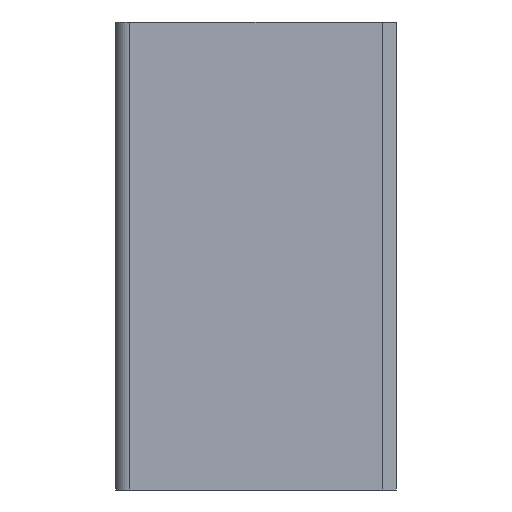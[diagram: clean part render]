
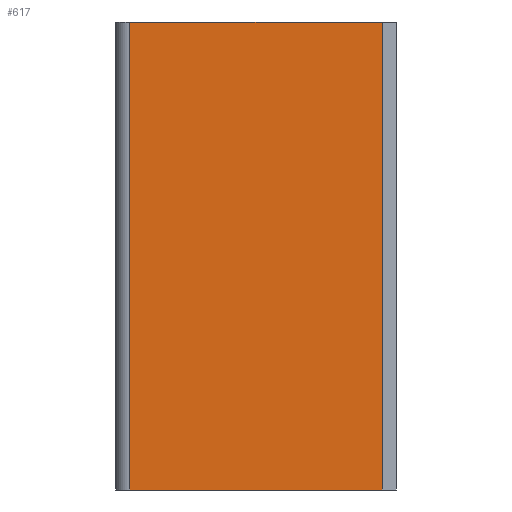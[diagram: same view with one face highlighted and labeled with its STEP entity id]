
A CAD part, left-side view. The second image highlights one B-rep face of the part: STEP entity #617.
In plain terms, the highlighted planar face has unit normal (-1, 0, 0).
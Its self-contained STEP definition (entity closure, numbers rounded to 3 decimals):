
#97=CARTESIAN_POINT('Line Origine',(0.,30.,0.)) ;
#101=CARTESIAN_POINT('Vertex',(0.,57.,0.)) ;
#103=CARTESIAN_POINT('Vertex',(0.,3.,0.)) ;
#520=CARTESIAN_POINT('Line Origine',(0.,30.,-100.)) ;
#524=CARTESIAN_POINT('Vertex',(0.,57.,-100.)) ;
#526=CARTESIAN_POINT('Vertex',(0.,3.,-100.)) ;
#596=CARTESIAN_POINT('Axis2P3D Location',(0.,57.,-100.)) ;
#601=CARTESIAN_POINT('Line Origine',(0.,57.,-50.)) ;
#606=CARTESIAN_POINT('Line Origine',(0.,3.,-50.)) ;
#98=DIRECTION('Vector Direction',(0.,-1.,0.)) ;
#521=DIRECTION('Vector Direction',(0.,-1.,0.)) ;
#597=DIRECTION('Axis2P3D Direction',(-1.,0.,0.)) ;
#598=DIRECTION('Axis2P3D XDirection',(0.,0.,1.)) ;
#602=DIRECTION('Vector Direction',(0.,0.,1.)) ;
#607=DIRECTION('Vector Direction',(0.,0.,1.)) ;
#599=AXIS2_PLACEMENT_3D('Plane Axis2P3D',#596,#597,#598) ;
#612=ORIENTED_EDGE('',*,*,#105,.F.) ;
#613=ORIENTED_EDGE('',*,*,#605,.F.) ;
#614=ORIENTED_EDGE('',*,*,#528,.T.) ;
#615=ORIENTED_EDGE('',*,*,#610,.T.) ;
#99=VECTOR('Line Direction',#98,1.) ;
#522=VECTOR('Line Direction',#521,1.) ;
#603=VECTOR('Line Direction',#602,1.) ;
#608=VECTOR('Line Direction',#607,1.) ;
#617=ADVANCED_FACE('A935-10017060',(#616),#600,.T.) ;
#105=EDGE_CURVE('',#102,#104,#100,.T.) ;
#528=EDGE_CURVE('',#525,#527,#523,.T.) ;
#605=EDGE_CURVE('',#525,#102,#604,.T.) ;
#610=EDGE_CURVE('',#527,#104,#609,.T.) ;
#611=EDGE_LOOP('',(#612,#613,#614,#615)) ;
#616=FACE_OUTER_BOUND('',#611,.T.) ;
#100=LINE('Line',#97,#99) ;
#523=LINE('Line',#520,#522) ;
#604=LINE('Line',#601,#603) ;
#609=LINE('Line',#606,#608) ;
#600=PLANE('Plane',#599) ;
#102=VERTEX_POINT('',#101) ;
#104=VERTEX_POINT('',#103) ;
#525=VERTEX_POINT('',#524) ;
#527=VERTEX_POINT('',#526) ;
